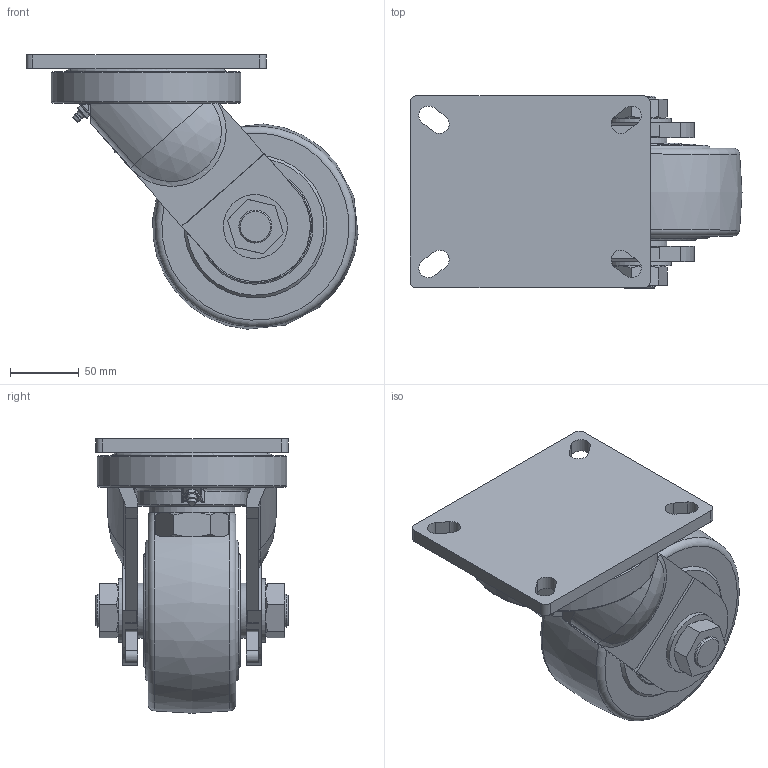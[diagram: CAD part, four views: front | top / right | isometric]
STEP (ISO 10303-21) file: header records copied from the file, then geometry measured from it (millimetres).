
FILE_DESCRIPTION((''),'2;1');
FILE_NAME('C:\Documents and Settings\Administrator\바탕 화면\3D STEP\GXT-SERIES\GXT-150\GXT-150-SF-MCD\GXT-150-SF(MCD).stp','2010-12-27T14:40:59',('Administrator'),(''),'Autodesk Inventor 2009','Autodesk Inventor 2009','');
FILE_SCHEMA(('AUTOMOTIVE_DESIGN { 1 0 10303 214 1 1 1 1 }'));
Length unit declared in the file: millimetre
Products named in the file (1): GXT-150-SF(MCD)
Bounding box: 241.86 x 140 x 199.9 mm (x, y, z)
Volume: 2019023.7 mm3; surface area: 272077.2 mm2
Topology: 11 solids, 11 shells, 370 faces, 934 edges, 605 vertices
Faces by surface type: plane 173, cylinder 105, bspline 38, cone 30, torus 20, sphere 4
Full cylindrical faces by diameter (mm): 5 x1, 6 x1, 22 x2, 24 x6, 24.3 x2, 24.5 x2, 26 x2, 30 x6, 30.5 x1, 35 x3, 40 x2, 40.667 x4, 46.7 x2, 48.5 x1, 51.333 x4, 55 x3, 56 x1, 57 x1, 62 x3, 62.5 x1, 78 x2, 80 x1, 138 x1
Entity records: 12190 total; most frequent: CARTESIAN_POINT 3861, DIRECTION 1723, ORIENTED_EDGE 1568, EDGE_CURVE 784, AXIS2_PLACEMENT_3D 685, VERTEX_POINT 572, EDGE_LOOP 556, FACE_OUTER_BOUND 370
